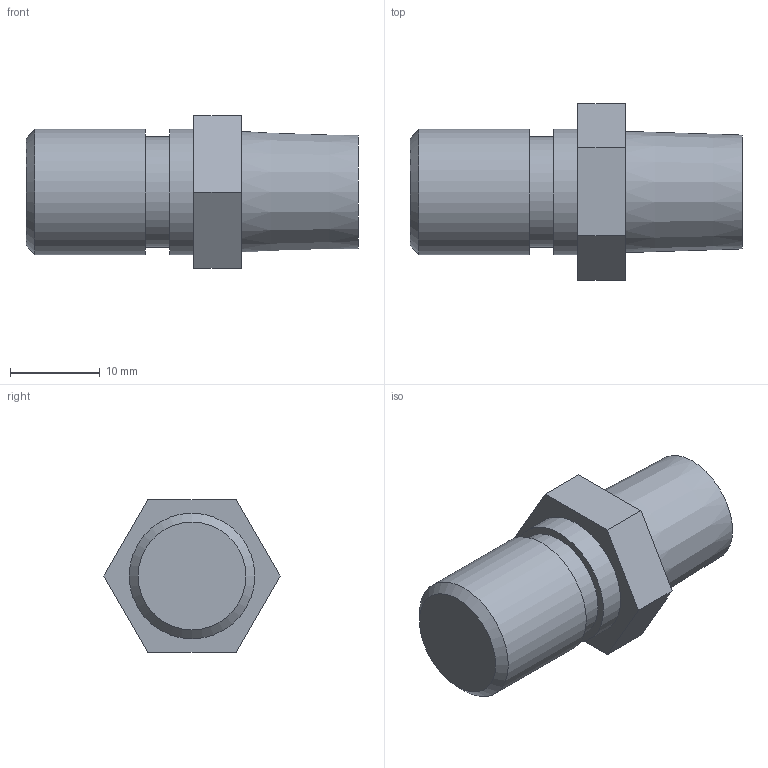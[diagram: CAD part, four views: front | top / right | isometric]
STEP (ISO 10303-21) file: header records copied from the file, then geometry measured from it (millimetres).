
FILE_DESCRIPTION((''),'2;1');
FILE_NAME('\\Sv02\Data\客先\あ行\アオイ\99_その他\3D_DATA\CPR_Series\12CPR-SPV-R-C\STEP\203\CPR-SPV-R1-4-C.ipt.stp','2008-07-04T13:55:44',(''),(''),'Autodesk Inventor 2009','Autodesk Inventor 2009','');
FILE_SCHEMA(('CONFIG_CONTROL_DESIGN'));
Length unit declared in the file: millimetre
Products named in the file (1): CPR-SPV-R1-4-C
Bounding box: 37 x 19.63 x 17 mm (x, y, z)
Volume: 5840.4 mm3; surface area: 2182.2 mm2
Topology: 1 solids, 1 shells, 17 faces, 32 edges, 21 vertices
Faces by surface type: plane 12, cylinder 3, cone 2
Full cylindrical faces by diameter (mm): 12.3 x1, 14 x2
Entity records: 419 total; most frequent: DIRECTION 72, CARTESIAN_POINT 66, ORIENTED_EDGE 54, AXIS2_PLACEMENT_3D 27, EDGE_CURVE 27, EDGE_LOOP 26, VERTEX_POINT 21, VECTOR 18
